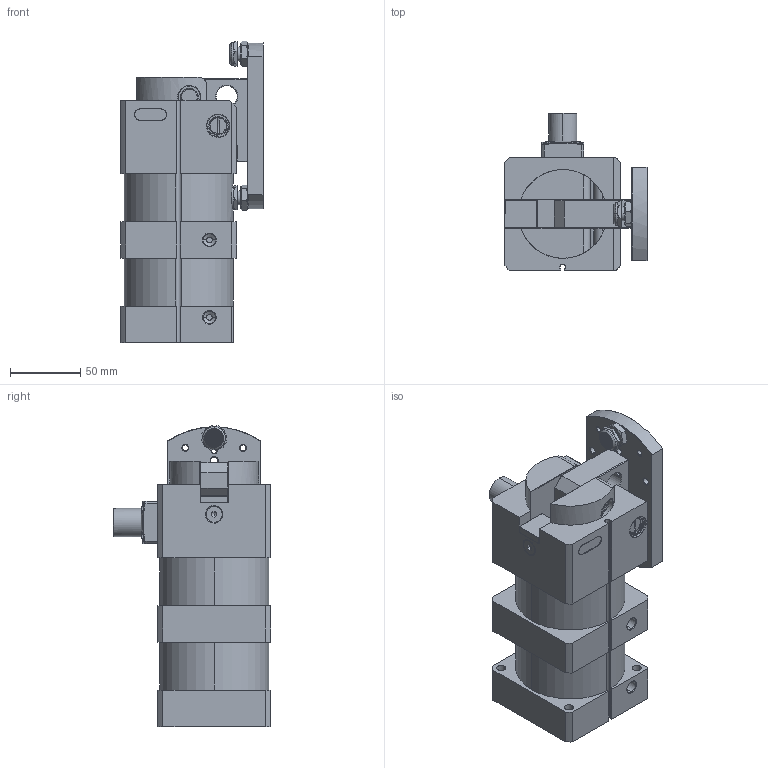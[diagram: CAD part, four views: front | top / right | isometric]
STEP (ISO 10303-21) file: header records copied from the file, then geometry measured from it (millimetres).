
FILE_DESCRIPTION (( 'STEP AP203' ), '1' );
FILE_NAME ('GFT60-90.STEP', '2024-09-03T06:09:32', ( '微软用户' ), ( '微软中国' ), 'SwSTEP 2.0', 'SolidWorks 2018', '' );
FILE_SCHEMA (( 'CONFIG_CONTROL_DESIGN' ));
Length unit declared in the file: millimetre
Products named in the file (1): GFT60-90
Bounding box: 101.26 x 111.5 x 214.06 mm (x, y, z)
Volume: 1070682.6 mm3; surface area: 140262.2 mm2
Topology: 2 solids, 37 shells, 4335 faces, 10749 edges, 7050 vertices
Faces by surface type: plane 3481, cylinder 448, cone 323, bspline 83
Entity records: 152023 total; most frequent: CARTESIAN_POINT 50105, ORIENTED_EDGE 21422, DIRECTION 19330, EDGE_CURVE 10711, VECTOR 8440, LINE 8440, VERTEX_POINT 7050, AXIS2_PLACEMENT_3D 5445
